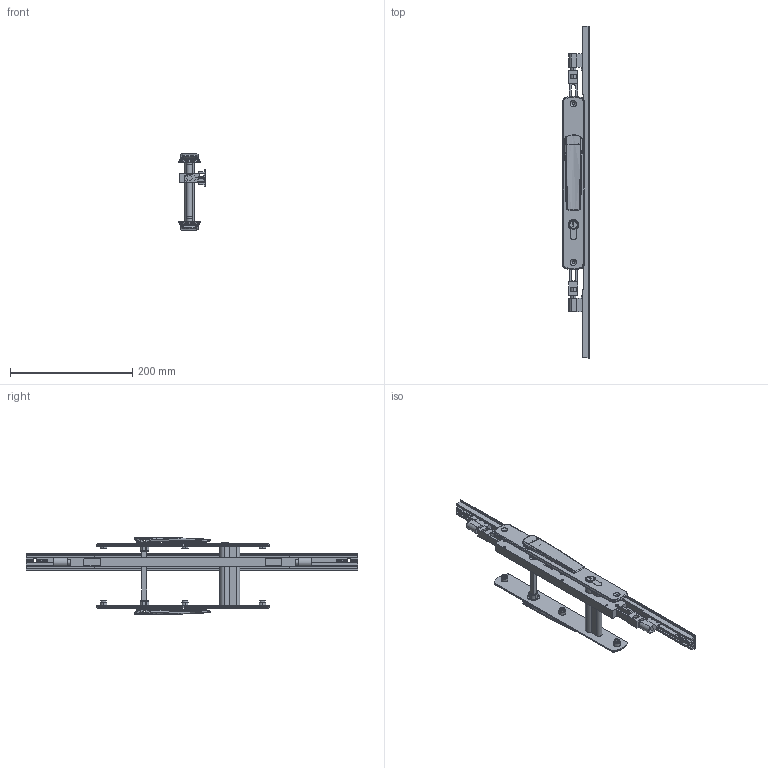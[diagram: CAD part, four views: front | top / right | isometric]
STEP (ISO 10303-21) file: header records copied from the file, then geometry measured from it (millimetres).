
FILE_DESCRIPTION (( 'STEP AP214' ), '1' );
FILE_NAME ('TPL-W-EU-625-L 06Nov2024.STEP', '2024-11-27T22:01:38', ( '' ), ( '' ), 'SwSTEP 2.0', 'SolidWorks 2023', '' );
FILE_SCHEMA (( 'AUTOMOTIVE_DESIGN' ));
Length unit declared in the file: millimetre
Products named in the file (24): Copy of TPL-W-EU-131 04Nov2024^TPL-W-EU-125 04Nov2024_TPL-050-105 Left; TPLGen2 push rod - simplified_Female thread M10; Copy of LKC-514 Escutcheon plate keyed external 285mm long zinc - simplified^Copy of TPGen2 handle keyed external zinc - simplified_TPL-W-EU-125 04Nov2024; Copy of COV-112-C Cover C TPLGen2 Lock body^TPL-W-EU-125 04Nov2024; Copy of TPLGen2 lock body keyed assembly^TPL-W-EU-125 04Nov2024_Bolts extended; Copy of LKC-512 Escutcheon plate keyed internal 285mm long zinc - simplified^Copy of TPGen2 handle keyed internal zinc - simplified_TPL-W-EU-125 04Nov2024; Bolt.step; Copy of TPLGen2 lock body keyed^Copy of TPLGen2 lock body keyed assembly_TPL-W-EU-125 04Nov2024; Copy of COV-112-A Cover A suit TPLGen2 standard range^TPL-W-EU-125 04Nov2024_1335mm; Copy of TPGen2 handle keyed external zinc - simplified^TPL-W-EU-125 04Nov2024_Vertical; Copy of LKC-585 Rotator body zinc^Copy of TPGen2 handle keyed external zinc - simplified_TPL-W-EU-125 04Nov2024; Copy of LKC-531 Lock twinpoint transmission rod wood system^TPL-W-EU-125 04Nov2024_Standard Range (588.7mm); Copy of Adapter CnE - simplfied^TPL-W-EU-125 04Nov2024_26mm backset; Copy of TPGen2 handle keyed internal zinc - simplified^TPL-W-EU-125 04Nov2024_Vertical; Copy of LKC-585 Rotator body zinc^Copy of TPGen2 handle keyed internal zinc - simplified_TPL-W-EU-125 04Nov2024; TPL-W-EU-625-L 06Nov2024; Copy of LKC-584 Pivot body zinc - simplified^Copy of TPGen2 handle keyed internal zinc - simplified_TPL-W-EU-125 04Nov2024; Copy of Adapter DnF - simplfied^TPL-W-EU-125 04Nov2024_26mm backset; Copy of COV-112-B Cover B suit TPLGen2 standard range^TPL-W-EU-125 04Nov2024_2870mm; Copy of Copy of LKC-531 Lock twinpoint transmission rod wood system^TPL-W-EU-125 04Nov2024_Standard Range 2891.7mm; Copy of LKC-586 Spindle square 8mm with M4 hole^Copy of TPGen2 handle keyed internal zinc - simplified_TPL-W-EU-125 04Nov2024_100mm; Copy of LKC-505 Swing handle zinc - simplified^Copy of TPGen2 handle keyed external zinc - simplified_TPL-W-EU-125 04Nov2024; Copy of LKC-505 Swing handle zinc - simplified^Copy of TPGen2 handle keyed internal zinc - simplified_TPL-W-EU-125 04Nov2024; Copy of LKC-584 Pivot body zinc - simplified^Copy of TPGen2 handle keyed external zinc - simplified_TPL-W-EU-125 04Nov2024
Assembly tree (21 placements, depth 3):
  Bolt.step
  Copy of COV-112-A Cover A suit TPLGen2 standard range^TPL-W-EU-125 04Nov2024_1335mm
  TPL-W-EU-625-L 06Nov2024
    Copy of TPLGen2 lock body keyed assembly^TPL-W-EU-125 04Nov2024_Bolts extended
      Copy of TPLGen2 lock body keyed^Copy of TPLGen2 lock body keyed assembly_TPL-W-EU-125 04Nov2024
      TPLGen2 push rod - simplified_Female thread M10  x2
    Copy of TPGen2 handle keyed internal zinc - simplified^TPL-W-EU-125 04Nov2024_Vertical
      Copy of LKC-512 Escutcheon plate keyed internal 285mm long zinc - simplified^Copy of TPGen2 handle keyed internal zinc - simplified_TPL-W-EU-125 04Nov2024
      Copy of LKC-505 Swing handle zinc - simplified^Copy of TPGen2 handle keyed internal zinc - simplified_TPL-W-EU-125 04Nov2024
      Copy of LKC-585 Rotator body zinc^Copy of TPGen2 handle keyed internal zinc - simplified_TPL-W-EU-125 04Nov2024
      Copy of LKC-586 Spindle square 8mm with M4 hole^Copy of TPGen2 handle keyed internal zinc - simplified_TPL-W-EU-125 04Nov2024_100mm
      Copy of LKC-584 Pivot body zinc - simplified^Copy of TPGen2 handle keyed internal zinc - simplified_TPL-W-EU-125 04Nov2024
    Copy of TPGen2 handle keyed external zinc - simplified^TPL-W-EU-125 04Nov2024_Vertical
      Copy of LKC-514 Escutcheon plate keyed external 285mm long zinc - simplified^Copy of TPGen2 handle keyed external zinc - simplified_TPL-W-EU-125 04Nov2024
      Copy of LKC-505 Swing handle zinc - simplified^Copy of TPGen2 handle keyed external zinc - simplified_TPL-W-EU-125 04Nov2024
      Copy of LKC-585 Rotator body zinc^Copy of TPGen2 handle keyed external zinc - simplified_TPL-W-EU-125 04Nov2024
      Copy of LKC-584 Pivot body zinc - simplified^Copy of TPGen2 handle keyed external zinc - simplified_TPL-W-EU-125 04Nov2024
    Copy of TPL-W-EU-131 04Nov2024^TPL-W-EU-125 04Nov2024_TPL-050-105 Left
    Copy of COV-112-C Cover C TPLGen2 Lock body^TPL-W-EU-125 04Nov2024
    Copy of LKC-531 Lock twinpoint transmission rod wood system^TPL-W-EU-125 04Nov2024_Standard Range (588.7mm)
    Copy of Copy of LKC-531 Lock twinpoint transmission rod wood system^TPL-W-EU-125 04Nov2024_Standard Range 2891.7mm
    Copy of Adapter CnE - simplfied^TPL-W-EU-125 04Nov2024_26mm backset
    Copy of Adapter DnF - simplfied^TPL-W-EU-125 04Nov2024_26mm backset
  Copy of COV-112-B Cover B suit TPLGen2 standard range^TPL-W-EU-125 04Nov2024_2870mm
Bounding box: 43.5 x 544 x 125.92 mm (x, y, z)
Volume: 371910.1 mm3; surface area: 182631.9 mm2
Topology: 18 solids, 18 shells, 1389 faces, 3377 edges, 2066 vertices
Faces by surface type: bspline 417, plane 391, cylinder 335, cone 132, torus 98, sphere 16
Entity records: 52285 total; most frequent: CARTESIAN_POINT 22806, ORIENTED_EDGE 6558, DIRECTION 5321, EDGE_CURVE 3279, AXIS2_PLACEMENT_3D 2061, VERTEX_POINT 2006, EDGE_LOOP 1487, FACE_OUTER_BOUND 1354
